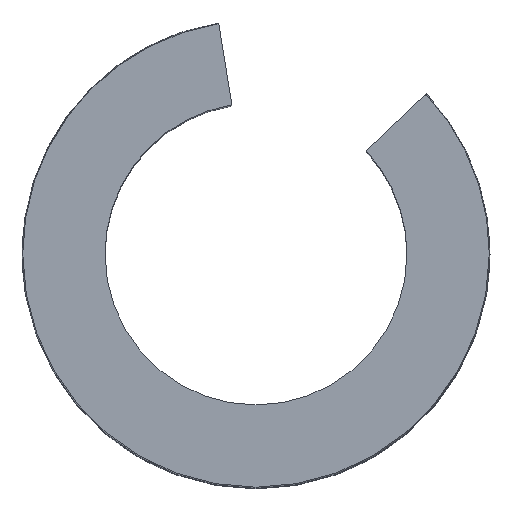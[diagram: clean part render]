
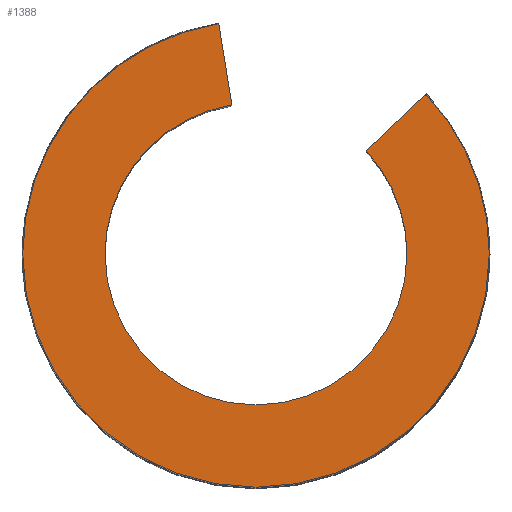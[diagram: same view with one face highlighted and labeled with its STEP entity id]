
A CAD part, top view. The second image highlights one B-rep face of the part: STEP entity #1388.
In plain terms, the highlighted planar face has unit normal (0, 0, 1).
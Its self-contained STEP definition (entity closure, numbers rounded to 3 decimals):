
#51=CARTESIAN_POINT('',(17.201,1.811,80.0));
#52=VERTEX_POINT('',#51);
#59=CARTESIAN_POINT('',(11.78,15.502,80.0));
#60=VERTEX_POINT('',#59);
#61=CARTESIAN_POINT('',(-2.799,1.811,80.0));
#62=DIRECTION('',(0.0,0.0,-1.0));
#63=DIRECTION('',(-1.0,0.0,0.0));
#64=AXIS2_PLACEMENT_3D('',#61,#62,#63);
#65=CIRCLE('',#64,20.0);
#66=EDGE_CURVE('',#60,#52,#65,.T.);
#91=CARTESIAN_POINT('',(-22.799,1.811,80.0));
#92=VERTEX_POINT('',#91);
#101=CARTESIAN_POINT('',(-2.799,1.811,80.0));
#102=DIRECTION('',(0.0,0.0,-1.0));
#103=DIRECTION('',(-1.0,0.0,0.0));
#104=AXIS2_PLACEMENT_3D('',#101,#102,#103);
#105=CIRCLE('',#104,20.0);
#106=EDGE_CURVE('',#52,#92,#105,.T.);
#514=CARTESIAN_POINT('',(28.101,1.811,80.0));
#515=VERTEX_POINT('',#514);
#523=CARTESIAN_POINT('',(19.726,22.964,80.0));
#524=VERTEX_POINT('',#523);
#531=CARTESIAN_POINT('',(-2.799,1.811,80.0));
#532=DIRECTION('',(0.0,0.0,-1.0));
#533=DIRECTION('',(-1.0,0.0,0.0));
#534=AXIS2_PLACEMENT_3D('',#531,#532,#533);
#535=CIRCLE('',#534,30.9);
#536=EDGE_CURVE('',#524,#515,#535,.T.);
#546=CARTESIAN_POINT('',(-33.699,1.811,80.0));
#547=VERTEX_POINT('',#546);
#554=CARTESIAN_POINT('',(-7.739,32.314,80.0));
#555=VERTEX_POINT('',#554);
#556=CARTESIAN_POINT('',(-2.799,1.811,80.0));
#557=DIRECTION('',(0.0,0.0,-1.0));
#558=DIRECTION('',(-1.0,0.0,0.0));
#559=AXIS2_PLACEMENT_3D('',#556,#557,#558);
#560=CIRCLE('',#559,30.9);
#561=EDGE_CURVE('',#547,#555,#560,.T.);
#691=CARTESIAN_POINT('',(-5.997,21.554,80.0));
#692=VERTEX_POINT('',#691);
#693=CARTESIAN_POINT('',(-5.997,21.554,80.0));
#694=DIRECTION('',(-0.16,0.987,0.0));
#695=VECTOR('',#694,10.9);
#696=LINE('',#693,#695);
#697=EDGE_CURVE('',#692,#555,#696,.T.);
#821=CARTESIAN_POINT('',(19.726,22.964,80.0));
#822=DIRECTION('',(-0.729,-0.685,0.0));
#823=VECTOR('',#822,10.9);
#824=LINE('',#821,#823);
#825=EDGE_CURVE('',#524,#60,#824,.T.);
#871=CARTESIAN_POINT('',(-2.799,1.811,80.0));
#872=DIRECTION('',(0.0,0.0,-1.0));
#873=DIRECTION('',(-1.0,0.0,0.0));
#874=AXIS2_PLACEMENT_3D('',#871,#872,#873);
#875=CIRCLE('',#874,30.9);
#876=EDGE_CURVE('',#515,#547,#875,.T.);
#1367=CARTESIAN_POINT('',(-2.799,1.811,80.0));
#1368=DIRECTION('',(0.0,0.0,-1.0));
#1369=DIRECTION('',(-1.0,0.0,0.0));
#1370=AXIS2_PLACEMENT_3D('',#1367,#1368,#1369);
#1371=PLANE('',#1370);
#1372=ORIENTED_EDGE('',*,*,#697,.T.);
#1373=ORIENTED_EDGE('',*,*,#561,.F.);
#1374=ORIENTED_EDGE('',*,*,#876,.F.);
#1375=ORIENTED_EDGE('',*,*,#536,.F.);
#1376=ORIENTED_EDGE('',*,*,#825,.T.);
#1377=ORIENTED_EDGE('',*,*,#66,.T.);
#1378=ORIENTED_EDGE('',*,*,#106,.T.);
#1379=CARTESIAN_POINT('',(-2.799,1.811,80.0));
#1380=DIRECTION('',(0.0,0.0,-1.0));
#1381=DIRECTION('',(-1.0,0.0,0.0));
#1382=AXIS2_PLACEMENT_3D('',#1379,#1380,#1381);
#1383=CIRCLE('',#1382,20.0);
#1384=EDGE_CURVE('',#92,#692,#1383,.T.);
#1385=ORIENTED_EDGE('',*,*,#1384,.T.);
#1386=EDGE_LOOP('',(#1372,#1373,#1374,#1375,#1376,#1377,#1378,#1385));
#1387=FACE_OUTER_BOUND('',#1386,.T.);
#1388=ADVANCED_FACE('',(#1387),#1371,.F.);
